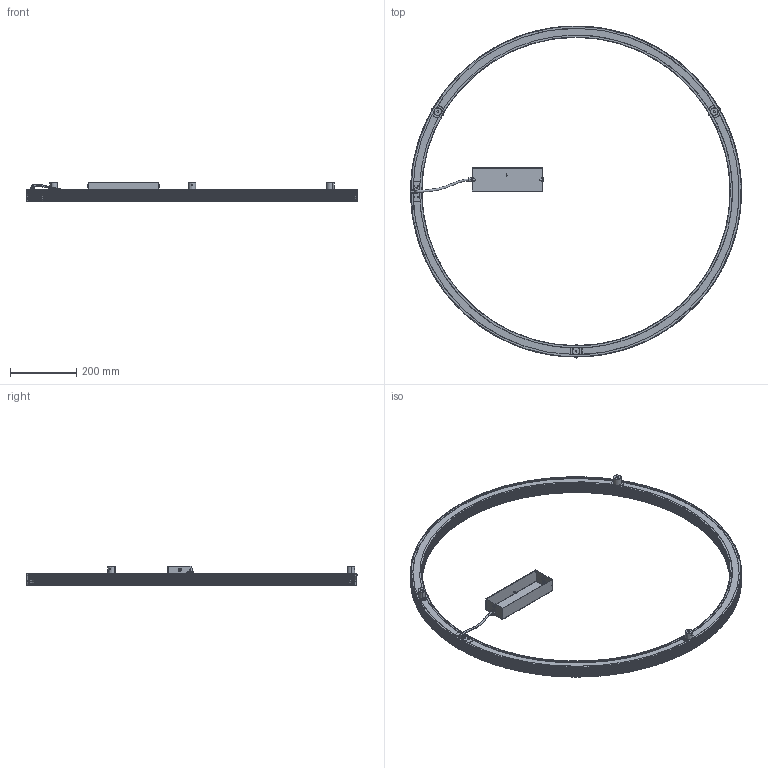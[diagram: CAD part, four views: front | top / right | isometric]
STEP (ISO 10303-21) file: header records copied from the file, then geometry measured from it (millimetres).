
FILE_DESCRIPTION(/* description */ (''),/* implementation_level */ '2;1');
FILE_NAME(/* name */ 'P231__~2',/* time_stamp */ '2024-07-05T12:03:47+02:00',/* author */ (''),/* organization */ (''),/* preprocessor_version */ 'ST-DEVELOPER v16.5',/* originating_system */ '',/* authorisation */ '');
FILE_SCHEMA (('AUTOMOTIVE_DESIGN'));
Length unit declared in the file: millimetre
Products named in the file (1): Document
Bounding box: 1000.24 x 1003.15 x 58.3 mm (x, y, z)
Volume: 975979.5 mm3; surface area: 1206165.8 mm2
Topology: 37 solids, 37 shells, 1605 faces, 3748 edges, 2191 vertices
Faces by surface type: bspline 1129, plane 476
Entity records: 85217 total; most frequent: CARTESIAN_POINT 63518, ORIENTED_EDGE 7380, EDGE_CURVE 3690, VERTEX_POINT 2191, B_SPLINE_CURVE_WITH_KNOTS 1810, EDGE_LOOP 1689, ADVANCED_FACE 1605, FACE_OUTER_BOUND 1605
